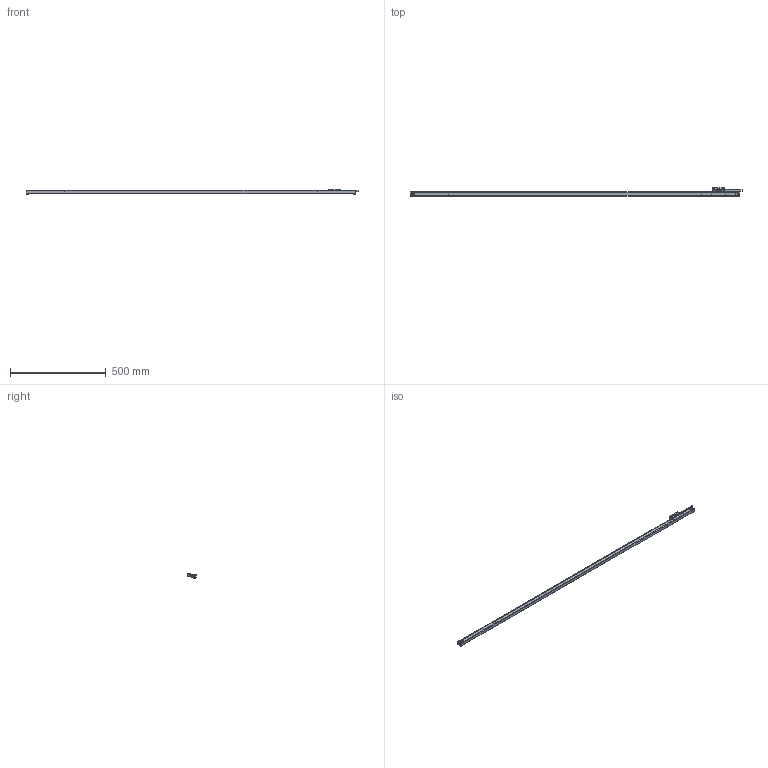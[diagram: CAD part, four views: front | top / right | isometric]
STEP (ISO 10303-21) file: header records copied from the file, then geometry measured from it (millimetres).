
FILE_DESCRIPTION( ( 'STEP AP203' ), '1' );
FILE_NAME( 'N:/Engineering/CAD_Solid/Magnescale/GBER/GB-160ER_SR138-160R.stp', '2013-03-14T10:05:36', ( ' ' ), ( ' ' ), 'XStep 1.0', ' ', ' ' );
FILE_SCHEMA( ( 'CONFIG_CONTROL_DESIGN) ( )' ) );
Length unit declared in the file: metre
Products named in the file (1): 1
Bounding box: 1732.5 x 42 x 21 mm (x, y, z)
Surface area: 166569.4 mm2 (no closed solid volume)
Topology: 0 solids, 230 shells, 230 faces, 1319 edges, 1300 vertices
Faces by surface type: plane 149, cylinder 68, torus 8, cone 5
Full cylindrical faces by diameter (mm): 4 x4, 4.8 x1, 5 x2, 6 x1, 9.8 x2, 10 x2
Entity records: 12746 total; most frequent: CARTESIAN_POINT 2821, DIRECTION 2129, ORIENTED_EDGE 1295, EDGE_CURVE 1295, VERTEX_POINT 1295, LINE 923, VECTOR 923, AXIS2_PLACEMENT_3D 603
